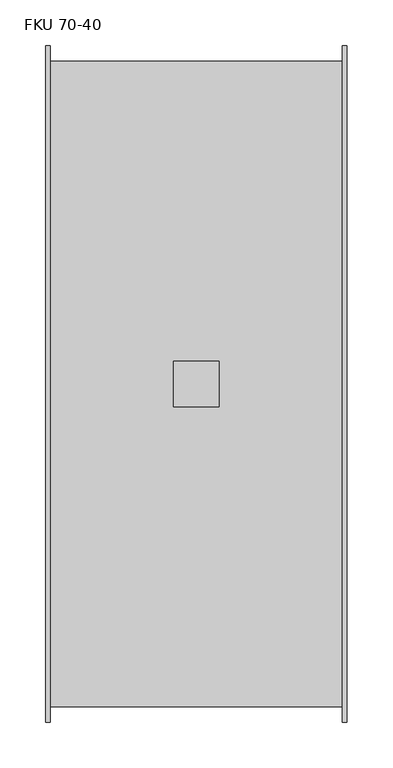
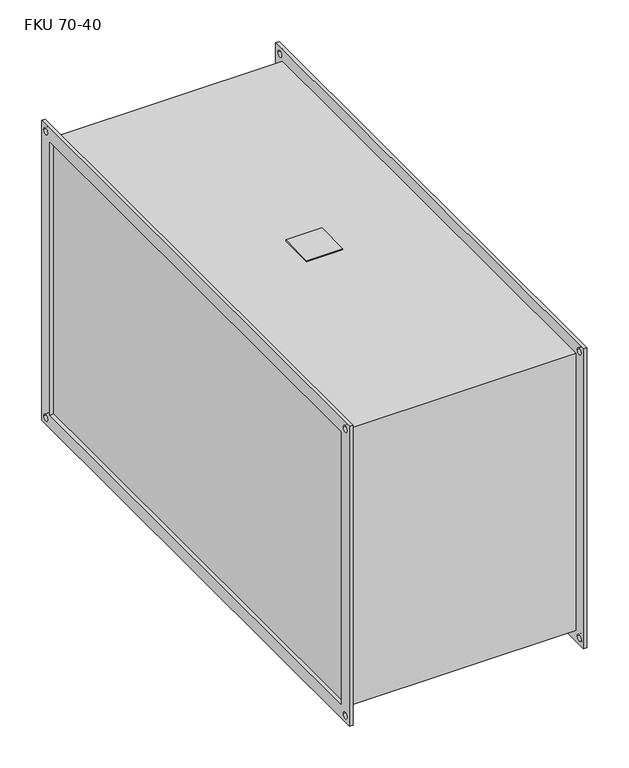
"""IFC4 building model written with IfcOpenShell, lengths in millimetres: damper geometry, KORF_Фильтр_Карманный_Укороченный_FKU : FKU 70-40."""

from ifc_helpers import new_model, si_unit, point, frame, frame_2d, origin, place, context, project, spatial, polyline, circle_curve, trimmed, segment, composite_curve, outline, extrude, source, transform, mapped, element, save


def fku_70_40_d07f7ef0(model_context):
    return source(origin(), model_context, "Body", "SweptSolid", [
        extrude(outline(polyline([(140.0, -25.0), (140.0, 25.0), (190.0, 25.0), (190.0, -25.0), (140.0, -25.0)])), frame((0.0, 0.0, 203.0), z_axis=(0.0, 0.0, 1.0), x_axis=(1.0, 0.0, 0.0)), (0.0, 0.0, 1.0), 2.0),
        extrude(outline(polyline([(-370.0, 220.0), (370.0, 220.0), (370.0, -220.0), (-370.0, -220.0), (-370.0, 220.0)]), holes=[polyline([(-350.0, 200.0), (-350.0, -200.0), (350.0, -200.0), (350.0, 200.0), (-350.0, 200.0)]), composite_curve([segment(trimmed(circle_curve(frame_2d((360.0, 210.0)), 4.5), [point((355.5, 210.0))], [point((364.5, 210.0))], True, "CARTESIAN"), True, "CONTINUOUS"), segment(trimmed(circle_curve(frame_2d((360.0, 210.0)), 4.5), [point((364.5, 210.0))], [point((355.5, 210.0))], True, "CARTESIAN"), True, "CONTINUOUS")], self_intersect=False), composite_curve([segment(trimmed(circle_curve(frame_2d((-360.0, 210.0)), 4.5), [point((-364.5, 210.0))], [point((-355.5, 210.0))], True, "CARTESIAN"), True, "CONTINUOUS"), segment(trimmed(circle_curve(frame_2d((-360.0, 210.0)), 4.5), [point((-355.5, 210.0))], [point((-364.5, 210.0))], True, "CARTESIAN"), True, "CONTINUOUS")], self_intersect=False), composite_curve([segment(trimmed(circle_curve(frame_2d((-360.0, -210.0)), 4.5), [point((-364.5, -210.0))], [point((-355.5, -210.0))], True, "CARTESIAN"), True, "CONTINUOUS"), segment(trimmed(circle_curve(frame_2d((-360.0, -210.0)), 4.5), [point((-355.5, -210.0))], [point((-364.5, -210.0))], True, "CARTESIAN"), True, "CONTINUOUS")], self_intersect=False), composite_curve([segment(trimmed(circle_curve(frame_2d((360.0, -210.0)), 4.5), [point((355.5, -210.0))], [point((364.5, -210.0))], True, "CARTESIAN"), True, "CONTINUOUS"), segment(trimmed(circle_curve(frame_2d((360.0, -210.0)), 4.5), [point((364.5, -210.0))], [point((355.5, -210.0))], True, "CARTESIAN"), True, "CONTINUOUS")], self_intersect=False)]), frame((325.0, 0.0, 0.0), z_axis=(1.0, 0.0, 0.0), x_axis=(0.0, 1.0, 0.0)), (0.0, 0.0, 1.0), 5.0),
        extrude(outline(polyline([(-370.0, 220.0), (370.0, 220.0), (370.0, -220.0), (-370.0, -220.0), (-370.0, 220.0)]), holes=[polyline([(-350.0, 200.0), (-350.0, -200.0), (350.0, -200.0), (350.0, 200.0), (-350.0, 200.0)]), composite_curve([segment(trimmed(circle_curve(frame_2d((360.0, 210.0)), 4.5), [point((355.5, 210.0))], [point((364.5, 210.0))], True, "CARTESIAN"), True, "CONTINUOUS"), segment(trimmed(circle_curve(frame_2d((360.0, 210.0)), 4.5), [point((364.5, 210.0))], [point((355.5, 210.0))], True, "CARTESIAN"), True, "CONTINUOUS")], self_intersect=False), composite_curve([segment(trimmed(circle_curve(frame_2d((-360.0, 210.0)), 4.5), [point((-364.5, 210.0))], [point((-355.5, 210.0))], True, "CARTESIAN"), True, "CONTINUOUS"), segment(trimmed(circle_curve(frame_2d((-360.0, 210.0)), 4.5), [point((-355.5, 210.0))], [point((-364.5, 210.0))], True, "CARTESIAN"), True, "CONTINUOUS")], self_intersect=False), composite_curve([segment(trimmed(circle_curve(frame_2d((-360.0, -210.0)), 4.5), [point((-364.5, -210.0))], [point((-355.5, -210.0))], True, "CARTESIAN"), True, "CONTINUOUS"), segment(trimmed(circle_curve(frame_2d((-360.0, -210.0)), 4.5), [point((-355.5, -210.0))], [point((-364.5, -210.0))], True, "CARTESIAN"), True, "CONTINUOUS")], self_intersect=False), composite_curve([segment(trimmed(circle_curve(frame_2d((360.0, -210.0)), 4.5), [point((355.5, -210.0))], [point((364.5, -210.0))], True, "CARTESIAN"), True, "CONTINUOUS"), segment(trimmed(circle_curve(frame_2d((360.0, -210.0)), 4.5), [point((364.5, -210.0))], [point((355.5, -210.0))], True, "CARTESIAN"), True, "CONTINUOUS")], self_intersect=False)]), frame((0.0, 0.0, 0.0), z_axis=(1.0, 0.0, 0.0), x_axis=(0.0, 1.0, 0.0)), (0.0, 0.0, 1.0), 5.0),
        extrude(outline(polyline([(325.0, 353.0), (325.0, -353.0), (5.0, -353.0), (5.0, 353.0), (325.0, 353.0)])), frame((0.0, 0.0, -203.0), z_axis=(0.0, 0.0, 1.0), x_axis=(1.0, 0.0, 0.0)), (0.0, 0.0, 1.0), 406.0),
    ])


if __name__ == "__main__":
    model = new_model("IFC4")
    model_context = context("Model", 3, world=origin())
    ifc_project = project(units=[si_unit("LENGTHUNIT", "METRE", prefix="MILLI")], contexts=[model_context])
    site = spatial("IfcSite", under=ifc_project)
    building = spatial("IfcBuilding", under=site)
    placement = place(None, origin())
    fku_70_40_shape = fku_70_40_d07f7ef0(model_context)
    element("IfcDamper", 1, ObjectType="KORF_Фильтр_Карманный_Укороченный_FKU : FKU 70-40", at=placement, inside=building, context=model_context, shape_type="MappedRepresentation", body=[
        mapped(fku_70_40_shape, transform((0.0, 0.0, 0.0), x_axis=(1.0, 0.0, 0.0), y_axis=(0.0, 1.0, 0.0), z_axis=(0.0, 0.0, 1.0))),
    ])
    save(model, "model.ifc")
